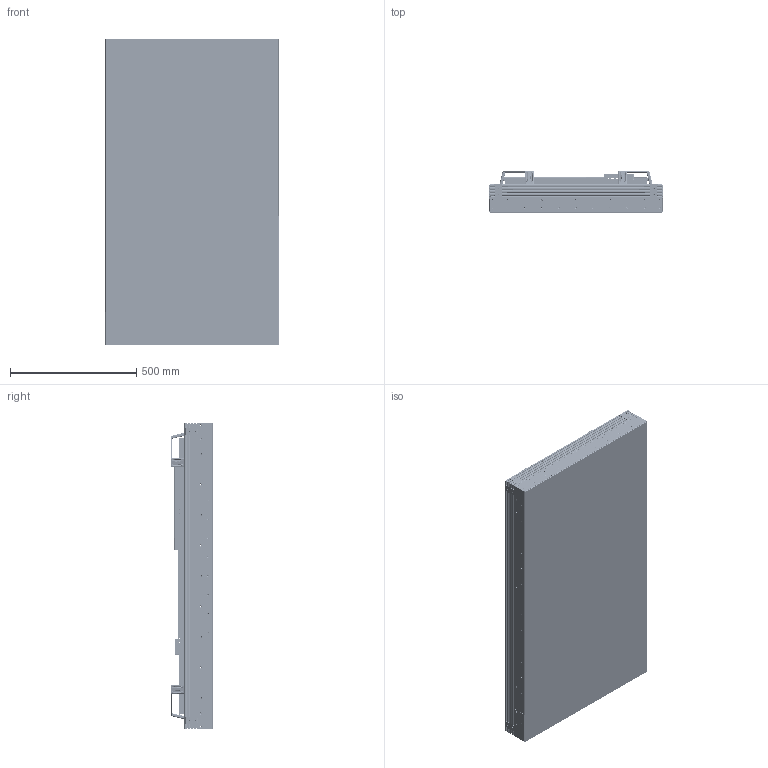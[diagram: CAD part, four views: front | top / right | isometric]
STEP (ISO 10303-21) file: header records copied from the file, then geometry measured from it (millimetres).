
FILE_DESCRIPTION(/* description */ (''),/* implementation_level */ '2;1');
FILE_NAME(/* name */ 'C:/Users/Juuso/Downloads/MT0901271RIGIDshell v3.step',/* time_stamp */ '2020-12-11T10:17:32+02:00',/* author */ (''),/* organization */ (''),/* preprocessor_version */ 'ST-DEVELOPER v18.1',/* originating_system */ 'Autodesk Translation Framework v9.7.1.1290',/* authorisation */ '');
FILE_SCHEMA (('AUTOMOTIVE_DESIGN { 1 0 10303 214 3 1 1 }'));
Products named in the file (52): MT0901271RIGIDshell; MT0901270_MT557D Display BL Assy; MT0901269_MT557D Base Fame Assy; MT0601287; MT0601286_MT0601058; MT0601285_MT0601057; MT0601166; MT0601167; MT0601165; MT0601060_MT0601060; MT0601059_MT0601059; MT0901090; MT0601070; MT0601080; MT0901107; MT0601071; 060620_060620_494mm; MT0901108; MT0901108 (1); MT0601072; 060620_060620_535mm; MT0901119; MT0601102; MT1601093_MT1601093; 060620_060620_429mm; 060620_060620_348mm; 060620_060620_283mm; MT1601014; MT1601074; Component89; Component90; Component91; Component92; Component93; Component94; MT0601171; MT0601294; MT0601289; MT0601288; MT0701010_Front Glas with Side Mask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
Assembly tree (135 placements, depth 4):
  MT0901271RIGIDshell
    MT0901270_MT557D Display BL Assy
      MT0901269_MT557D Base Fame Assy
        MT0601287
        MT0601286_MT0601058
        MT0601285_MT0601057
        MT0601166
        MT0601167
        MT0601165
        MT0601060_MT0601060
        MT0601059_MT0601059
        MT0901090
      MT0601070  x4
      MT0601080  x4
      MT0901107
        MT0601071
        MT1601093_MT1601093  x6
        060620_060620_494mm
        060620_060620_283mm  x2
      MT0901108
        MT0601072
        MT1601093_MT1601093  x5
        060620_060620_535mm
      MT0901108 (1)
        MT0601072
        MT1601093_MT1601093  x5
        060620_060620_535mm
      MT0901119
        MT0601102
        MT1601093_MT1601093  x8
        060620_060620_429mm
        060620_060620_348mm
        060620_060620_283mm
      MT1601014  x16
      MT1601074  x28
    Component89
    Component90
    Component91
    Component92
    Component93
    Component94
    Component95  x2
    Component96  x2
    MT0601171
    MT0601294
    MT0601289
    MT0601288
    MT0701010_Front Glas with Side Mask
      MT0701008_Protection Glass (1)
    Spacerplate
      Component1
    Spacerplate_1
      Component1
    Spacerplate_2
      Component1
    Spacerplate_3
      Component1
    Spacerplate_4
      Component1
    Spacerplate_5
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Bounding box: 686.69 x 166.65 x 1215.89 mm (x, y, z)
Volume: 7227596.3 mm3; surface area: 5838208.6 mm2
Topology: 119 solids, 119 shells, 16619 faces, 45644 edges, 29780 vertices
Faces by surface type: plane 12785, cylinder 2648, torus 486, bspline 335, cone 333, sphere 32
Full cylindrical faces by diameter (mm): 2.05 x58, 2.5 x54, 3.2 x58, 3.3 x74, 3.4 x16, 3.7 x38, 4.1 x24, 4.2 x44, 4.5 x78, 5 x49, 5.4 x52, 5.41 x2, 5.5 x56, 6.5 x60, 6.6 x32, 6.8 x28, 7 x2, 7.5 x18, 7.95 x24, 8.5 x59, 9 x4, 9.5 x28, 10 x38, 11 x28
Entity records: 469548 total; most frequent: CARTESIAN_POINT 101858, ORIENTED_EDGE 75104, DIRECTION 69100, EDGE_CURVE 37552, LINE 31814, VECTOR 31814, VERTEX_POINT 24541, AXIS2_PLACEMENT_3D 18643
